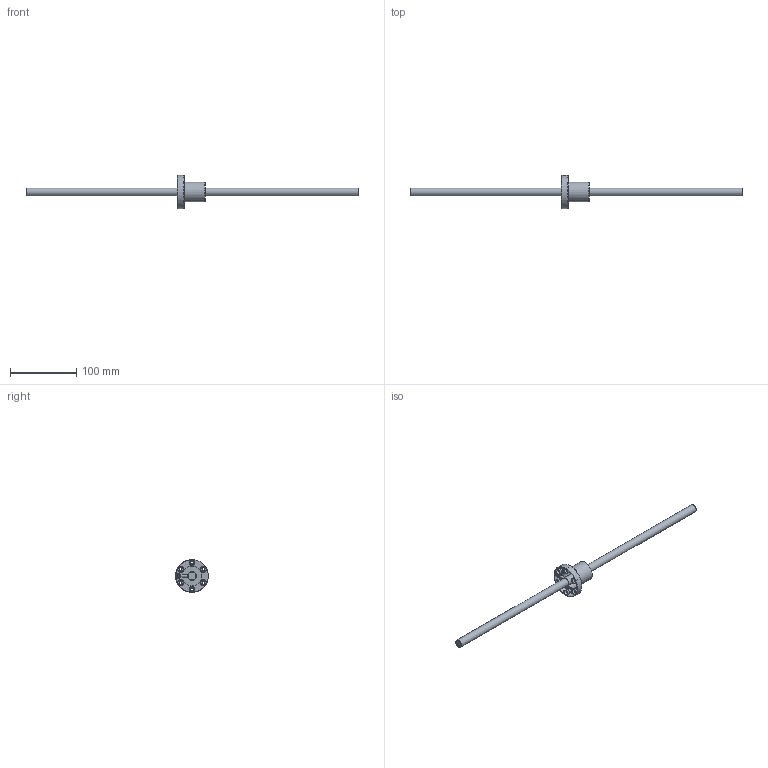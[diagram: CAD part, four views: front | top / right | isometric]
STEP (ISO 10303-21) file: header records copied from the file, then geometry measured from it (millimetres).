
FILE_DESCRIPTION (( 'STEP AP203' ), '1' );
FILE_NAME ('SFV01205N-2.8.step', '2024-05-20T03:36:51', ( '' ), ( '' ), 'SwSTEP 2.0', 'SolidWorks 2022', '' );
FILE_SCHEMA (( 'CONFIG_CONTROL_DESIGN' ));
Length unit declared in the file: millimetre
Products named in the file (1): SFV01205N-2.8
Bounding box: 500 x 50 x 50 mm (x, y, z)
Volume: 90651.6 mm3; surface area: 30120.7 mm2
Topology: 2 solids, 2 shells, 57 faces, 131 edges, 79 vertices
Faces by surface type: cylinder 24, cone 13, plane 12, bspline 5, torus 3
Full cylindrical faces by diameter (mm): 4 x1, 4.5 x6, 5 x6, 8 x6, 12 x1, 13.1 x1, 30 x1, 50 x1
Entity records: 2999 total; most frequent: CARTESIAN_POINT 1978, DIRECTION 206, ORIENTED_EDGE 136, EDGE_LOOP 102, AXIS2_PLACEMENT_3D 101, FACE_OUTER_BOUND 72, EDGE_CURVE 68, VERTEX_POINT 58
